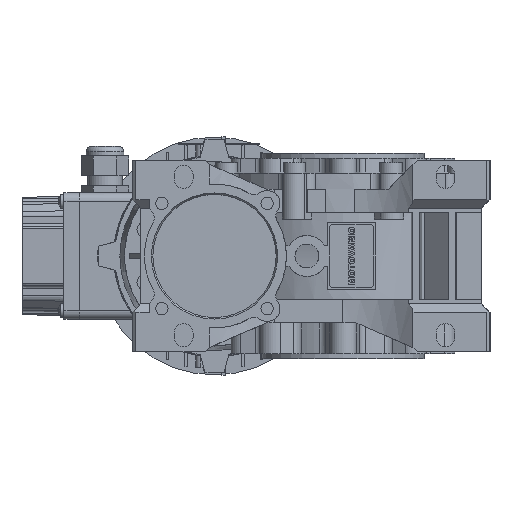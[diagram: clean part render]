
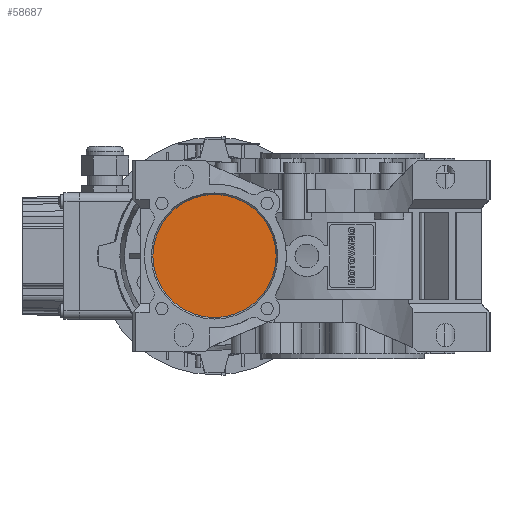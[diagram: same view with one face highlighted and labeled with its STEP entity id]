
A CAD part, left-side view. The second image highlights one B-rep face of the part: STEP entity #58687.
In plain terms, the highlighted planar face has unit normal (-1, 0, 0) as drawn and (0, 0, -1) by its records, which use the part's own axes.
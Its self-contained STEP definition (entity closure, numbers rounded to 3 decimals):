
#12492=PLANE('',#75400);
#27447=ORIENTED_EDGE('',*,*,#37747,.F.);
#37747=EDGE_CURVE('',#44015,#44015,#47154,.T.);
#44015=VERTEX_POINT('',#110848);
#47154=CIRCLE('',#75399,36.);
#50391=EDGE_LOOP('',(#27447));
#54018=FACE_BOUND('',#50391,.T.);
#58687=ADVANCED_FACE('',(#54018),#12492,.T.);
#75399=AXIS2_PLACEMENT_3D('',#110847,#91683,#91684);
#75400=AXIS2_PLACEMENT_3D('',#110849,#91685,#91686);
#91683=DIRECTION('',(0.,0.,1.));
#91684=DIRECTION('',(1.,0.,0.));
#91685=DIRECTION('',(0.,0.,-1.));
#91686=DIRECTION('',(-1.,0.,0.));
#110847=CARTESIAN_POINT('',(0.,75.,-87.5));
#110848=CARTESIAN_POINT('',(36.,75.,-87.5));
#110849=CARTESIAN_POINT('',(36.,75.,-87.5));
